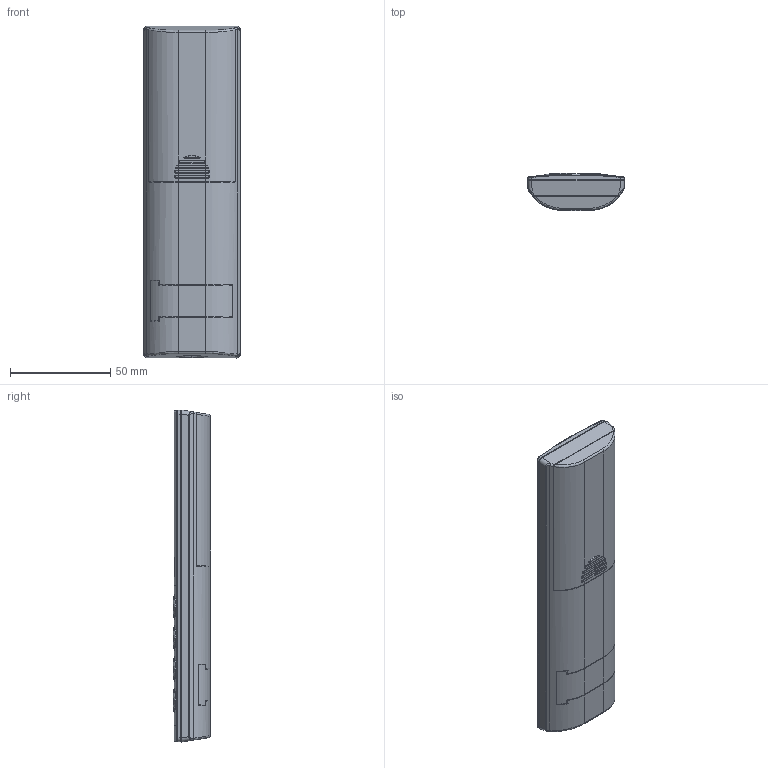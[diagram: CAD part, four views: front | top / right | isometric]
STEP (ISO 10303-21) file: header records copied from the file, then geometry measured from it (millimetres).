
FILE_DESCRIPTION((''),'2;1');
FILE_NAME('0128-ASM_ASM_10_ASM','2016-11-07T',('user'),(''),'PRO/ENGINEER BY PARAMETRIC TECHNOLOGY CORPORATION, 2008090','PRO/ENGINEER BY PARAMETRIC TECHNOLOGY CORPORATION, 2008090','');
FILE_SCHEMA(('CONFIG_CONTROL_DESIGN'));
Products named in the file (1): 0128-ASM_ASM_10_ASM
Bounding box: 48.07 x 18.76 x 165.32 mm (x, y, z)
Surface area: 73128 mm2 (no closed solid volume)
Topology: 0 solids, 11 shells, 1977 faces, 5370 edges, 3473 vertices
Faces by surface type: plane 1077, cylinder 443, bspline 240, torus 111, extrusion 64, cone 38, sphere 4
Full cylindrical faces by diameter (mm): 0.08 x1
Entity records: 85934 total; most frequent: CARTESIAN_POINT 38204, ORIENTED_EDGE 10611, DIRECTION 8734, EDGE_CURVE 5359, VERTEX_POINT 3469, VECTOR 3204, LINE 3140, AXIS2_PLACEMENT_3D 2765
